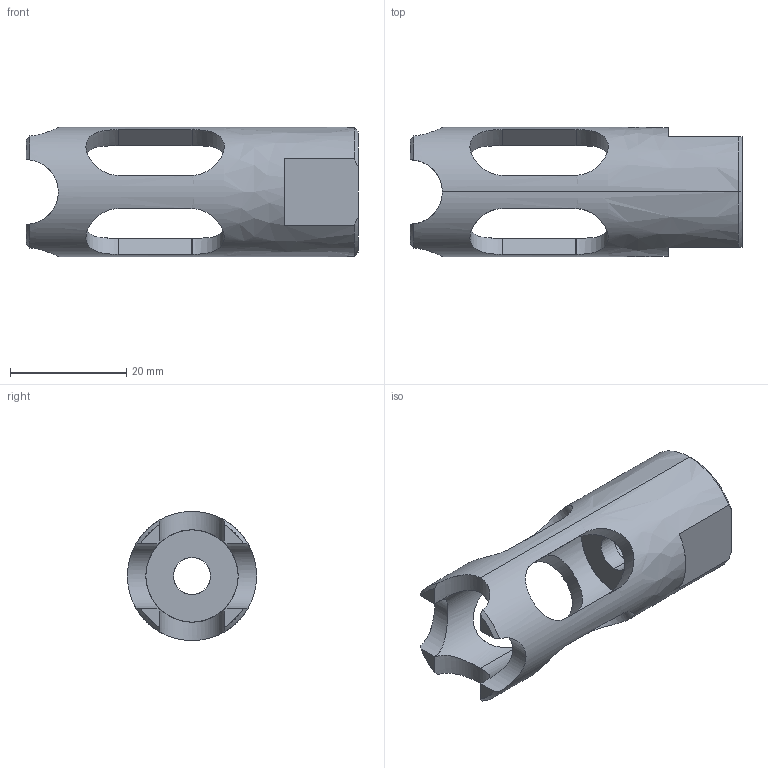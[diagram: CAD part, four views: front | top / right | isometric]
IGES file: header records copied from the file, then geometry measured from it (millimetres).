
Start section: SolidWorks IGES file using analytic representation for surfaces
Global section: file name: C:\Users\Shane\Desktop\Flash Hider.IGS; native system: SolidWorks 2011; preprocessor: SolidWorks 2011; author: Shane; date: 120428.191046; units: inch
Bounding box: 57.15 x 22.23 x 22.23 mm (x, y, z)
Surface area: 5745.5 mm2 (no closed solid volume)
Topology: 0 solids, 0 shells, 46 faces, 1325 edges, 1325 vertices
Faces by surface type: revolution 27, bspline 19
